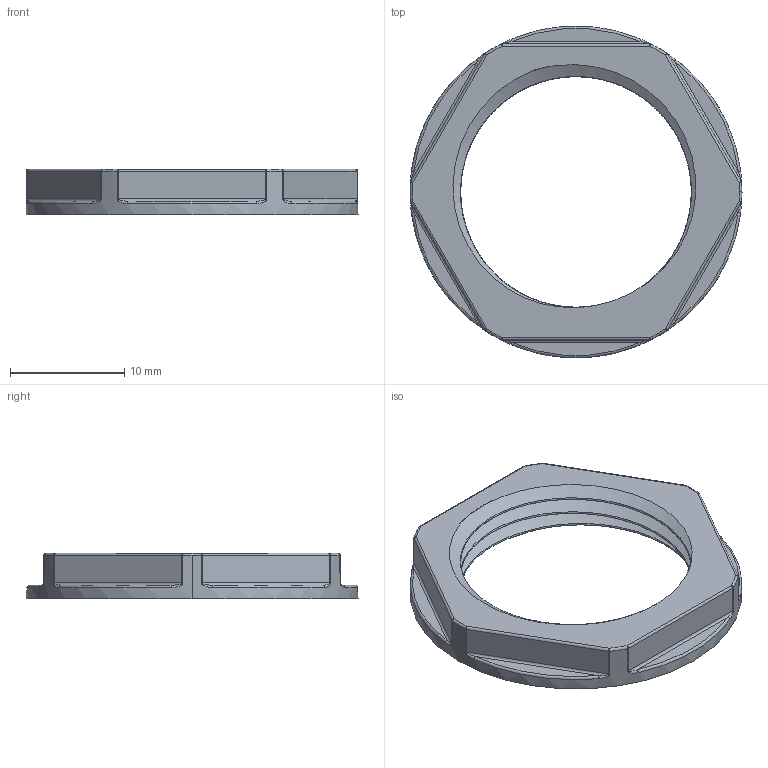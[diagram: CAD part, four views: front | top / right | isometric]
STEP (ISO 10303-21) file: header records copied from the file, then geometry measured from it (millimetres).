
FILE_DESCRIPTION (( 'STEP AP203' ), '1' );
FILE_NAME ('plc-pg-19-00.00.003 Ãàéêà ïðèæèìíàÿ (PG19-Ì22) #clamping nut (PG19-M22)#.STEP', '2021-06-02T07:06:40', ( '' ), ( '' ), 'SwSTEP 2.0', 'SolidWorks 2021', '' );
FILE_SCHEMA (( 'CONFIG_CONTROL_DESIGN' ));
Length unit declared in the file: millimetre
Products named in the file (1): plc-pg-19-00.00.003 Ãàéêà ïðèæèìíàÿ (PG19-Ì22) #clamping nut (PG19-M22)#
Bounding box: 29.07 x 29.07 x 4 mm (x, y, z)
Volume: 998.1 mm3; surface area: 1445.1 mm2
Topology: 1 solids, 1 shells, 89 faces, 197 edges, 110 vertices
Faces by surface type: bspline 29, cylinder 18, plane 14, torus 13, sphere 13, cone 2
Entity records: 5524 total; most frequent: CARTESIAN_POINT 3690, ORIENTED_EDGE 394, DIRECTION 343, EDGE_CURVE 197, AXIS2_PLACEMENT_3D 156, VERTEX_POINT 110, CIRCLE 95, EDGE_LOOP 91
